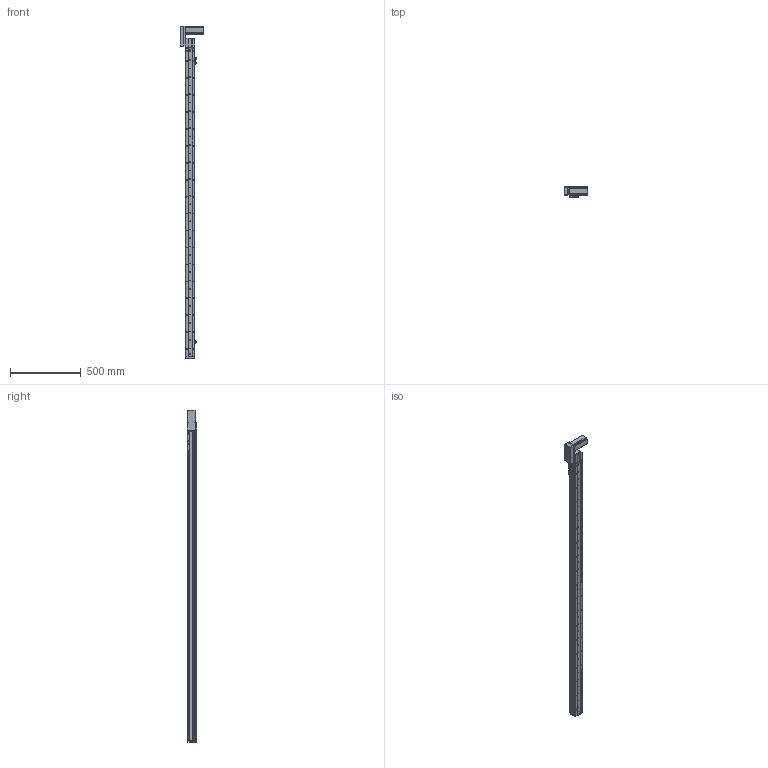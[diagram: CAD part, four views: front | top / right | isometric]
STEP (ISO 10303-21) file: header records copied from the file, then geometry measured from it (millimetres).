
FILE_DESCRIPTION (( 'STEP AP214' ), '1' );
FILE_NAME ('KSD68BS-S2000-MRB-CM.STEP', '2019-10-19T09:43:05', ( '微软用户' ), ( '微软中国' ), 'SwSTEP 2.0', 'SolidWorks 2014', '' );
FILE_SCHEMA (( 'AUTOMOTIVE_DESIGN' ));
Length unit declared in the file: millimetre
Products named in the file (11): 68宽单导轨半封闭同步带主动轮座右; 68单导轨同步带半封闭端板; KSD68BS 2000俴最裔啣圉猾敕; 覜茼え68遵圉猾敕; KSD68BS半封闭同步带传动导轨座; U倰嫖萇EEㄜSX672; 台达ECMA－C20604AS伺服电机（400W); KSD68BS 2000俴最菁啣圉猾敕; KSD68BS-S2000-MRB-CM; 悵誘欶奻狟殏; 68宽马达安装板连板上折同步带
Assembly tree (12 placements, depth 2):
  KSD68BS-S2000-MRB-CM
    KSD68BS 2000俴最菁啣圉猾敕
    台达ECMA－C20604AS伺服电机（400W)
    U倰嫖萇EEㄜSX672  x3
    KSD68BS半封闭同步带传动导轨座
    覜茼え68遵圉猾敕
    KSD68BS 2000俴最裔啣圉猾敕
    68单导轨同步带半封闭端板
    68宽单导轨半封闭同步带主动轮座右
    68宽马达安装板连板上折同步带
    悵誘欶奻狟殏
Bounding box: 167.2 x 70.5 x 2349.5 mm (x, y, z)
Volume: 3631787.4 mm3; surface area: 1376128.2 mm2
Topology: 13 solids, 13 shells, 1710 faces, 5052 edges, 3296 vertices
Faces by surface type: cylinder 922, plane 705, cone 83
Entity records: 68425 total; most frequent: CARTESIAN_POINT 14082, ORIENTED_EDGE 8856, DIRECTION 8484, EDGE_CURVE 4428, AXIS2_PLACEMENT_3D 3066, VERTEX_POINT 2920, VECTOR 2352, LINE 2352
